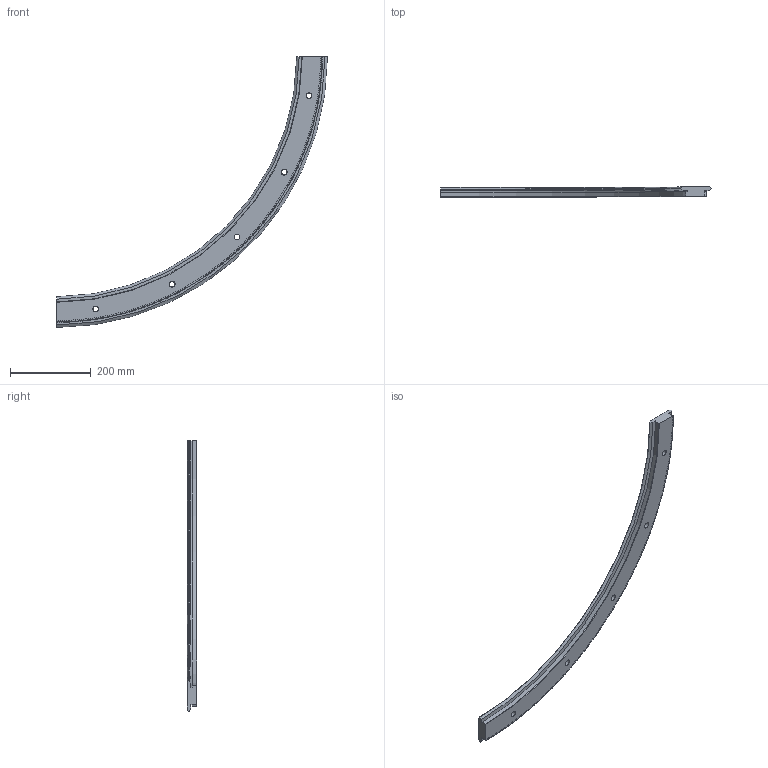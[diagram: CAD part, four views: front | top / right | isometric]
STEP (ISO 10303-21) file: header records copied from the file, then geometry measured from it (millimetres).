
FILE_DESCRIPTION( ( 'STEP AP203' ), '1' );
FILE_NAME( 'p:/temp/worker_35/temp/exporttempdir_2496_430_AvBjH/format_0/R76 1267 R90 P.stp', '2021-07-19T05:43:29', ( 'License CC BY-ND 4.0' ), ( 'CADENAS' ), ' ', 'PARTsolutions', ' ' );
FILE_SCHEMA( ( 'CONFIG_CONTROL_DESIGN' ) );
Length unit declared in the file: millimetre
Products named in the file (1): _R76 1267 R90 P
Bounding box: 669.43 x 24 x 669.43 mm (x, y, z)
Volume: 1307999.1 mm3; surface area: 220883.8 mm2
Topology: 1 solids, 1 shells, 1350 faces, 3586 edges, 2243 vertices
Faces by surface type: plane 889, cylinder 231, cone 228, torus 2
Full cylindrical faces by diameter (mm): 14 x5, 20 x5
Entity records: 41989 total; most frequent: CARTESIAN_POINT 8527, ORIENTED_EDGE 7142, DIRECTION 6955, EDGE_CURVE 3571, AXIS2_PLACEMENT_3D 2483, VERTEX_POINT 2243, LINE 1989, VECTOR 1989
